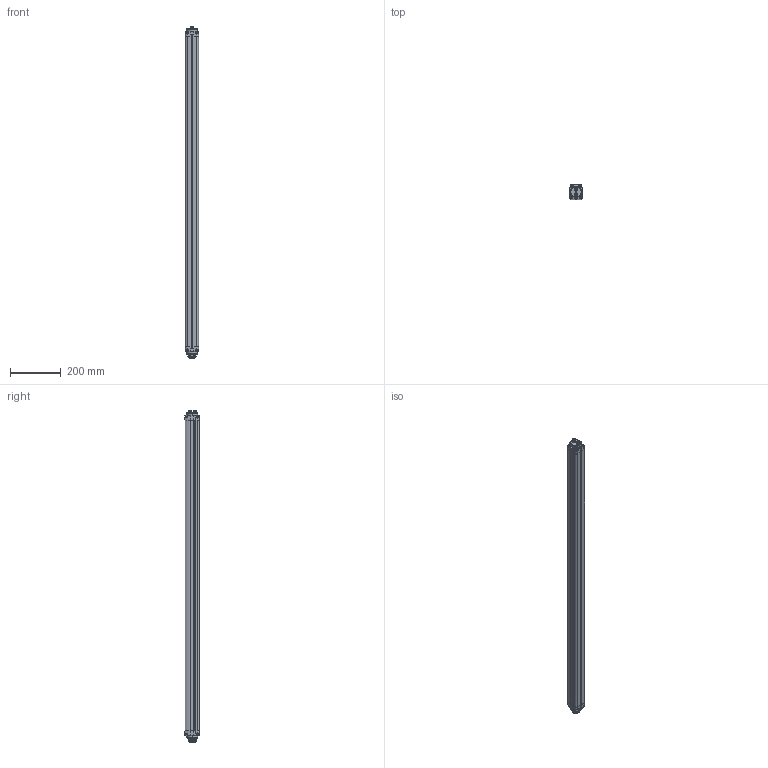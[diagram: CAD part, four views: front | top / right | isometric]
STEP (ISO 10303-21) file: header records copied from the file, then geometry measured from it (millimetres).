
FILE_DESCRIPTION(('STEP AP214'),'1');
FILE_NAME('SGBodyBigMuting_120_safetylightcurtains.stp','2017-11-09T11:10:11',('3D-Tool'),(' '),'Spatial InterOp 3D',' ',' ');
FILE_SCHEMA(('AUTOMOTIVE_DESIGN { 1 0 10303 214 1 1 1 1 }'));
Length unit declared in the file: millimetre
Products named in the file (1): 1
Bounding box: 52 x 56.93 x 1306.4 mm (x, y, z)
Surface area: 326618.7 mm2 (no closed solid volume)
Topology: 0 solids, 1138 shells, 1138 faces, 5889 edges, 5861 vertices
Faces by surface type: bspline 1138
Entity records: 136585 total; most frequent: CARTESIAN_POINT 71991, ORIENTED_EDGE 5861, EDGE_CURVE 5861, VERTEX_POINT 5861, DIRECTION 4477, PRESENTATION_STYLE_ASSIGNMENT 4360, COLOUR_RGB 4360, B_SPLINE_CURVE_WITH_KNOTS 3612
